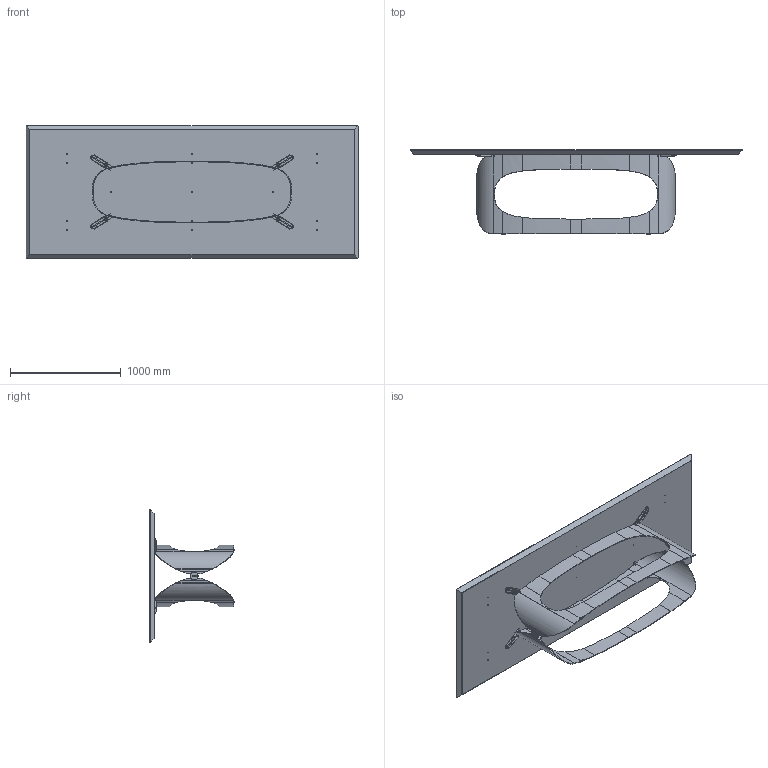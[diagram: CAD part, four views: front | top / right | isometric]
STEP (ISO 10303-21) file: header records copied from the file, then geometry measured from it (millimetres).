
FILE_DESCRIPTION (( 'STEP AP203' ), '1' );
FILE_NAME ('PO24W_Polifemo_300x120_.STEP', '2024-08-06T14:19:37', ( '' ), ( '' ), 'SwSTEP 2.0', 'SolidWorks 2022', '' );
FILE_SCHEMA (( 'CONFIG_CONTROL_DESIGN' ));
Length unit declared in the file: millimetre
Products named in the file (15): M8xXXmm_hex_M8X16mm; nut_M8_M8; PO24W_Polifemo_300x120_; POL000000_03-01-POLIFEMO FREGIO COMPLETO; POL000000_03A-01-POLIFEMO FREGIO; POL000000_03B-00-POLIFEMO FREGIO; POL000001_01-00-MEZZA BASE POLIFEMO L300 GREZZO; POLPIA000V01-00-POLIFEMO PIASTRA X FISSAGGIO TOP LEG-MAR; GRANO M8X35_barra; Vite Legno 4xXX testa piana_S4.5x25; POL000000_02-02-CILINDRO DI FISSAGGIO Ø12X15 M8; POL000001-00-POLIFEMO BASE L300 GREZZO; W2XCMXX-00-Piani Rettangolari in legno_3000 x 1200; rondella M8_8X32; PVC profilo Polifemo 9x8
Assembly tree (41 placements, depth 3):
  PO24W_Polifemo_300x120_
    POL000001-00-POLIFEMO BASE L300 GREZZO
      POL000001_01-00-MEZZA BASE POLIFEMO L300 GREZZO  x2
      POL000000_02-02-CILINDRO DI FISSAGGIO Ø12X15 M8  x4
    POL000000_03-01-POLIFEMO FREGIO COMPLETO  x2
      POL000000_03A-01-POLIFEMO FREGIO
      POL000000_03B-00-POLIFEMO FREGIO
    PVC profilo Polifemo 9x8  x4
    POLPIA000V01-00-POLIFEMO PIASTRA X FISSAGGIO TOP LEG-MAR  x4
    M8xXXmm_hex_M8X16mm  x4
    GRANO M8X35_barra  x4
    nut_M8_M8  x4
    rondella M8_8X32  x4
    Vite Legno 4xXX testa piana_S4.5x25  x4
    W2XCMXX-00-Piani Rettangolari in legno_3000 x 1200
Bounding box: 3000 x 759.97 x 1200 mm (x, y, z)
Volume: 141100096.6 mm3; surface area: 10685418.4 mm2
Topology: 41 solids, 41 shells, 1474 faces, 3614 edges, 2137 vertices
Faces by surface type: cylinder 488, plane 412, bspline 200, torus 180, cone 130, sphere 64
Entity records: 27361 total; most frequent: CARTESIAN_POINT 13758, ORIENTED_EDGE 2404, DIRECTION 2248, EDGE_CURVE 1202, AXIS2_PLACEMENT_3D 898, VERTEX_POINT 733, EDGE_LOOP 549, ADVANCED_FACE 514
